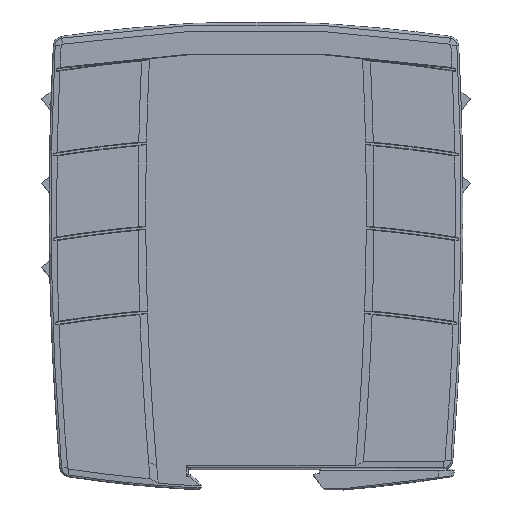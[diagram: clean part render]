
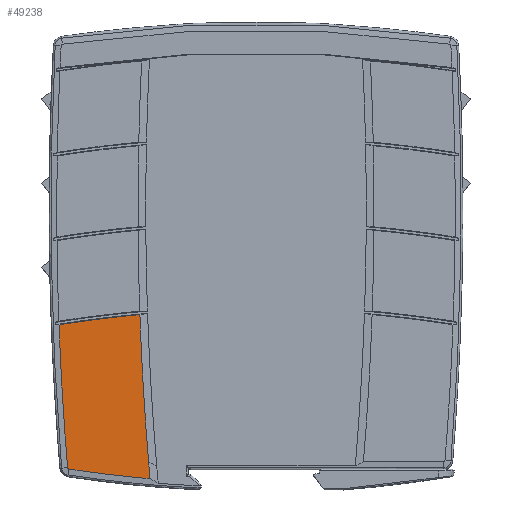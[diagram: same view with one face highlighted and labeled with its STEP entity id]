
A CAD part, top view. The second image highlights one B-rep face of the part: STEP entity #49238.
In plain terms, the highlighted planar face has unit normal (0, 0, 1).
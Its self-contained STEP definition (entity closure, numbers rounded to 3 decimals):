
#1892=ELLIPSE('',#52507,801.463,798.);
#1924=ELLIPSE('',#52561,0.402,0.4);
#1925=ELLIPSE('',#52563,780.372,777.);
#1926=ELLIPSE('',#52564,332.688,331.25);
#1927=ELLIPSE('',#52565,324.402,323.);
#1928=ELLIPSE('',#52566,780.372,777.);
#3724=FACE_OUTER_BOUND('',#6367,.T.);
#6367=EDGE_LOOP('',(#38866,#38867,#38868,#38869,#38870,#38871));
#21515=VERTEX_POINT('',#78419);
#21516=VERTEX_POINT('',#78420);
#21565=VERTEX_POINT('',#78787);
#21566=VERTEX_POINT('',#78791);
#21567=VERTEX_POINT('',#78792);
#21568=VERTEX_POINT('',#78795);
#27543=EDGE_CURVE('',#21515,#21516,#1892,.T.);
#27607=EDGE_CURVE('',#21565,#21515,#1924,.T.);
#27608=EDGE_CURVE('',#21566,#21567,#1925,.T.);
#27609=EDGE_CURVE('',#21516,#21567,#1926,.T.);
#27610=EDGE_CURVE('',#21568,#21565,#1927,.T.);
#27611=EDGE_CURVE('',#21568,#21566,#1928,.T.);
#38866=ORIENTED_EDGE('',*,*,#27608,.T.);
#38867=ORIENTED_EDGE('',*,*,#27609,.F.);
#38868=ORIENTED_EDGE('',*,*,#27543,.F.);
#38869=ORIENTED_EDGE('',*,*,#27607,.F.);
#38870=ORIENTED_EDGE('',*,*,#27610,.F.);
#38871=ORIENTED_EDGE('',*,*,#27611,.T.);
#44459=PLANE('',#52562);
#49238=ADVANCED_FACE('',(#3724),#44459,.T.);
#52507=AXIS2_PLACEMENT_3D('',#78421,#62445,#62446);
#52561=AXIS2_PLACEMENT_3D('',#78789,#62567,#62568);
#52562=AXIS2_PLACEMENT_3D('',#78790,#62569,#62570);
#52563=AXIS2_PLACEMENT_3D('',#78793,#62571,#62572);
#52564=AXIS2_PLACEMENT_3D('',#78794,#62573,#62574);
#52565=AXIS2_PLACEMENT_3D('',#78796,#62575,#62576);
#52566=AXIS2_PLACEMENT_3D('',#78797,#62577,#62578);
#62445=DIRECTION('center_axis',(0.,0.,
-1.));
#62446=DIRECTION('ref_axis',(0.,1.,0.));
#62567=DIRECTION('center_axis',(0.,0.,
-1.));
#62568=DIRECTION('ref_axis',(0.,1.,0.));
#62569=DIRECTION('center_axis',(0.,0.,
1.));
#62570=DIRECTION('ref_axis',(1.,0.,0.));
#62571=DIRECTION('center_axis',(0.,0.,
-1.));
#62572=DIRECTION('ref_axis',(0.,1.,0.));
#62573=DIRECTION('center_axis',(0.,0.,
-1.));
#62574=DIRECTION('ref_axis',(0.,1.,0.));
#62575=DIRECTION('center_axis',(0.,0.,
-1.));
#62576=DIRECTION('ref_axis',(0.,1.,0.));
#62577=DIRECTION('center_axis',(0.,0.,
-1.));
#62578=DIRECTION('ref_axis',(0.,1.,0.));
#78419=CARTESIAN_POINT('',(-48.726,0.505,8.45));
#78420=CARTESIAN_POINT('',(-50.954,37.478,8.45));
#78421=CARTESIAN_POINT('Origin',(746.49,67.399,8.45));
#78787=CARTESIAN_POINT('',(-48.387,0.141,8.45));
#78789=CARTESIAN_POINT('Origin',(-48.327,0.538,8.45));
#78790=CARTESIAN_POINT('Origin',(-25.727,57.345,8.45));
#78791=CARTESIAN_POINT('',(-27.778,2.009,8.45));
#78792=CARTESIAN_POINT('',(-30.034,40.067,8.45));
#78793=CARTESIAN_POINT('Origin',(746.49,67.399,8.45));
#78794=CARTESIAN_POINT('Origin',(0.,-291.251,8.45));
#78795=CARTESIAN_POINT('',(-27.4,-2.35,8.45));
#78796=CARTESIAN_POINT('Origin',(0.,320.882,
8.45));
#78797=CARTESIAN_POINT('Origin',(746.49,67.399,8.45));
